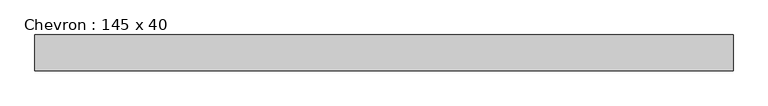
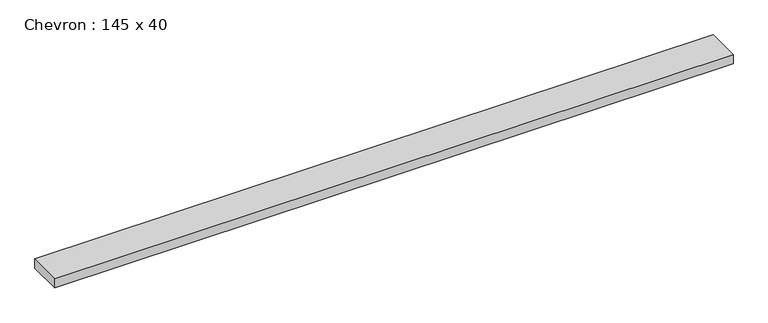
"""IFC4 building model written with IfcOpenShell, lengths in millimetres: beam geometry, Chevron : 145 x 40."""

from ifc_helpers import new_model, si_unit, frame, origin, place, context, project, spatial, polyline, outline, extrude, source, transform, mapped, element, save


def chevron_145_x_40_41390dd3(model_context):
    return source(origin(), model_context, "Body", "SweptSolid", [
        extrude(outline(polyline([(1459.3057525, 72.5), (1459.3057525, -72.5), (-1371.0, -72.5), (-1371.0, 72.5), (1459.3057525, 72.5)])), frame((0.0, 0.0, -20.0), z_axis=(0.0, 0.0, 1.0), x_axis=(1.0, 0.0, 0.0)), (0.0, 0.0, 1.0), 40.0),
    ])


if __name__ == "__main__":
    model = new_model("IFC4")
    model_context = context("Model", 3, world=origin())
    ifc_project = project(units=[si_unit("LENGTHUNIT", "METRE", prefix="MILLI")], contexts=[model_context])
    site = spatial("IfcSite", under=ifc_project)
    building = spatial("IfcBuilding", under=site)
    placement = place(None, origin())
    chevron_145_x_40_shape = chevron_145_x_40_41390dd3(model_context)
    element("IfcBeam", 1, ObjectType="Chevron : 145 x 40", at=placement, inside=building, context=model_context, shape_type="MappedRepresentation", body=[
        mapped(chevron_145_x_40_shape, transform((0.0, 0.0, 0.0), x_axis=(1.0, 0.0, 0.0), y_axis=(0.0, 1.0, 0.0), z_axis=(0.0, 0.0, 1.0))),
    ])
    save(model, "model.ifc")
